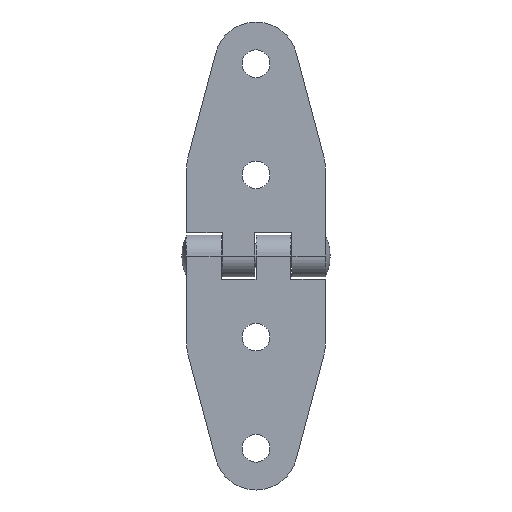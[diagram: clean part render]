
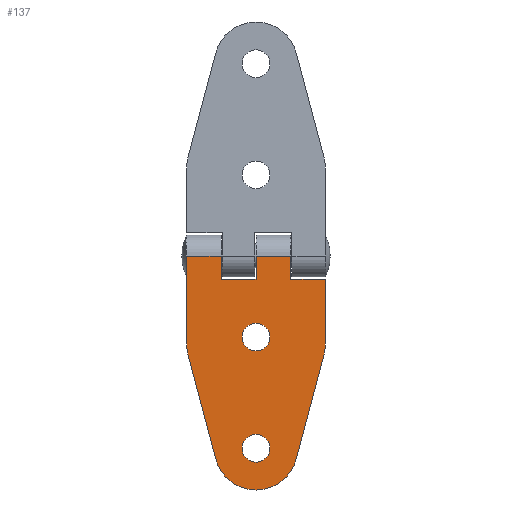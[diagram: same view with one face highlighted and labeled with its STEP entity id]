
A CAD part, front view. The second image highlights one B-rep face of the part: STEP entity #137.
In plain terms, the highlighted planar face has unit normal (0, -1, 0).
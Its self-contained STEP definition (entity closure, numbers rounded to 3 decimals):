
#137=ADVANCED_FACE('',(#223,#224,#225),#226,.T.);
#223=FACE_BOUND('',#375,.T.);
#224=FACE_BOUND('',#376,.T.);
#225=FACE_OUTER_BOUND('',#377,.T.);
#226=PLANE('',#378);
#375=EDGE_LOOP('',(#603,#604));
#376=EDGE_LOOP('',(#605,#606));
#377=EDGE_LOOP('',(#607,#608,#609,#610,#611,#612,#613,#614,#615,#616,#617,#618,#619,#620,#621));
#378=AXIS2_PLACEMENT_3D('',#622,#623,#624);
#603=ORIENTED_EDGE('',*,*,#1182,.T.);
#604=ORIENTED_EDGE('',*,*,#1137,.T.);
#605=ORIENTED_EDGE('',*,*,#1183,.T.);
#606=ORIENTED_EDGE('',*,*,#1133,.T.);
#607=ORIENTED_EDGE('',*,*,#1172,.T.);
#608=ORIENTED_EDGE('',*,*,#1178,.T.);
#609=ORIENTED_EDGE('',*,*,#1165,.F.);
#610=ORIENTED_EDGE('',*,*,#1184,.T.);
#611=ORIENTED_EDGE('',*,*,#1185,.T.);
#612=ORIENTED_EDGE('',*,*,#1186,.T.);
#613=ORIENTED_EDGE('',*,*,#1142,.F.);
#614=ORIENTED_EDGE('',*,*,#1187,.T.);
#615=ORIENTED_EDGE('',*,*,#1188,.T.);
#616=ORIENTED_EDGE('',*,*,#1189,.T.);
#617=ORIENTED_EDGE('',*,*,#1190,.T.);
#618=ORIENTED_EDGE('',*,*,#1131,.T.);
#619=ORIENTED_EDGE('',*,*,#1191,.T.);
#620=ORIENTED_EDGE('',*,*,#1192,.T.);
#621=ORIENTED_EDGE('',*,*,#1179,.T.);
#622=CARTESIAN_POINT('',(0.,-4.5,-50.5));
#623=DIRECTION('',(0.0,-1.0,0.0));
#624=DIRECTION('',(0.,0.0,-1.0));
#1131=EDGE_CURVE('',#1337,#1341,#1343,.T.);
#1133=EDGE_CURVE('',#1347,#1344,#1348,.T.);
#1137=EDGE_CURVE('',#1355,#1352,#1356,.T.);
#1142=EDGE_CURVE('',#1363,#1365,#1366,.T.);
#1165=EDGE_CURVE('',#1408,#1410,#1411,.T.);
#1172=EDGE_CURVE('',#1423,#1421,#1424,.T.);
#1178=EDGE_CURVE('',#1421,#1410,#1431,.T.);
#1179=EDGE_CURVE('',#1432,#1423,#1433,.T.);
#1182=EDGE_CURVE('',#1352,#1355,#1437,.T.);
#1183=EDGE_CURVE('',#1344,#1347,#1438,.T.);
#1184=EDGE_CURVE('',#1408,#1439,#1440,.T.);
#1185=EDGE_CURVE('',#1439,#1441,#1442,.T.);
#1186=EDGE_CURVE('',#1441,#1365,#1443,.T.);
#1187=EDGE_CURVE('',#1363,#1444,#1445,.T.);
#1188=EDGE_CURVE('',#1444,#1446,#1447,.T.);
#1189=EDGE_CURVE('',#1446,#1448,#1449,.T.);
#1190=EDGE_CURVE('',#1448,#1337,#1450,.T.);
#1191=EDGE_CURVE('',#1341,#1451,#1452,.T.);
#1192=EDGE_CURVE('',#1451,#1432,#1453,.T.);
#1337=VERTEX_POINT('',#1684);
#1341=VERTEX_POINT('',#1689);
#1343=CIRCLE('',#1692,9.0);
#1344=VERTEX_POINT('',#1693);
#1347=VERTEX_POINT('',#1697);
#1348=CIRCLE('',#1698,3.0);
#1352=VERTEX_POINT('',#1703);
#1355=VERTEX_POINT('',#1707);
#1356=CIRCLE('',#1708,3.0);
#1363=VERTEX_POINT('',#1717);
#1365=VERTEX_POINT('',#1719);
#1366=LINE('',#1720,#1721);
#1408=VERTEX_POINT('',#1773);
#1410=VERTEX_POINT('',#1775);
#1411=LINE('',#1776,#1777);
#1421=VERTEX_POINT('',#1789);
#1423=VERTEX_POINT('',#1792);
#1424=LINE('',#1793,#1794);
#1431=LINE('',#1804,#1805);
#1432=VERTEX_POINT('',#1806);
#1433=LINE('',#1807,#1808);
#1437=CIRCLE('',#1814,3.0);
#1438=CIRCLE('',#1815,3.0);
#1439=VERTEX_POINT('',#1816);
#1440=LINE('',#1817,#1818);
#1441=VERTEX_POINT('',#1819);
#1442=LINE('',#1820,#1821);
#1443=LINE('',#1822,#1823);
#1444=VERTEX_POINT('',#1824);
#1445=LINE('',#1825,#1826);
#1446=VERTEX_POINT('',#1827);
#1447=CIRCLE('',#1828,10.);
#1448=VERTEX_POINT('',#1829);
#1449=LINE('',#1830,#1831);
#1450=CIRCLE('',#1832,9.0);
#1451=VERTEX_POINT('',#1833);
#1452=LINE('',#1834,#1835);
#1453=CIRCLE('',#1836,10.);
#1684=CARTESIAN_POINT('',(15.0,-4.5,-50.5));
#1689=CARTESIAN_POINT('',(23.776,-4.5,-43.494));
#1692=AXIS2_PLACEMENT_3D('',#2210,#2211,#2212);
#1693=CARTESIAN_POINT('',(15.0,-4.5,-44.5));
#1697=CARTESIAN_POINT('',(15.0,-4.5,-38.5));
#1698=AXIS2_PLACEMENT_3D('',#2214,#2215,#2216);
#1703=CARTESIAN_POINT('',(15.0,-4.5,-20.5));
#1707=CARTESIAN_POINT('',(15.0,-4.5,-14.5));
#1708=AXIS2_PLACEMENT_3D('',#2222,#2223,#2224);
#1717=CARTESIAN_POINT('',(0.,-4.5,0.));
#1719=CARTESIAN_POINT('',(7.5,-4.5,0.));
#1720=CARTESIAN_POINT('',(0.,-4.5,0.));
#1721=VECTOR('',#2233,1.0);
#1773=CARTESIAN_POINT('',(15.0,-4.5,0.));
#1775=CARTESIAN_POINT('',(22.5,-4.5,0.));
#1776=CARTESIAN_POINT('',(0.,-4.5,0.));
#1777=VECTOR('',#2280,1.0);
#1789=CARTESIAN_POINT('',(22.5,-4.5,-5.0));
#1792=CARTESIAN_POINT('',(30.0,-4.5,-5.0));
#1793=CARTESIAN_POINT('',(13.125,-4.5,-5.0));
#1794=VECTOR('',#2293,1.0);
#1804=CARTESIAN_POINT('',(22.5,-4.5,-25.375));
#1805=VECTOR('',#2303,1.0);
#1806=CARTESIAN_POINT('',(30.0,-4.5,-18.718));
#1807=CARTESIAN_POINT('',(30.0,-4.5,0.));
#1808=VECTOR('',#2304,1.0);
#1814=AXIS2_PLACEMENT_3D('',#2307,#2308,#2309);
#1815=AXIS2_PLACEMENT_3D('',#2310,#2311,#2312);
#1816=CARTESIAN_POINT('',(15.0,-4.5,-5.0));
#1817=CARTESIAN_POINT('',(15.0,-4.5,-25.375));
#1818=VECTOR('',#2313,1.0);
#1819=CARTESIAN_POINT('',(7.5,-4.5,-5.0));
#1820=CARTESIAN_POINT('',(5.625,-4.5,-5.0));
#1821=VECTOR('',#2314,1.0);
#1822=CARTESIAN_POINT('',(7.5,-4.5,-25.375));
#1823=VECTOR('',#2315,1.0);
#1824=CARTESIAN_POINT('',(0.,-4.5,-18.718));
#1825=CARTESIAN_POINT('',(0.,-4.5,0.));
#1826=VECTOR('',#2316,1.0);
#1827=CARTESIAN_POINT('',(0.248,-4.5,-20.934));
#1828=AXIS2_PLACEMENT_3D('',#2317,#2318,#2319);
#1829=CARTESIAN_POINT('',(6.224,-4.5,-43.494));
#1830=CARTESIAN_POINT('',(6.887,-4.5,-45.997));
#1831=VECTOR('',#2320,1.0);
#1832=AXIS2_PLACEMENT_3D('',#2321,#2322,#2323);
#1833=CARTESIAN_POINT('',(29.752,-4.5,-20.934));
#1834=CARTESIAN_POINT('',(25.118,-4.5,-38.429));
#1835=VECTOR('',#2324,1.0);
#1836=AXIS2_PLACEMENT_3D('',#2325,#2326,#2327);
#2210=CARTESIAN_POINT('',(15.0,-4.5,-41.5));
#2211=DIRECTION('',(0.0,-1.0,0.0));
#2212=DIRECTION('',(0.,0.0,-1.0));
#2214=CARTESIAN_POINT('',(15.0,-4.5,-41.5));
#2215=DIRECTION('',(0.0,1.0,0.0));
#2216=DIRECTION('',(0.,0.0,-1.0));
#2222=CARTESIAN_POINT('',(15.0,-4.5,-17.5));
#2223=DIRECTION('',(0.0,1.0,0.0));
#2224=DIRECTION('',(0.,0.0,-1.0));
#2233=DIRECTION('',(1.0,0.0,0.));
#2280=DIRECTION('',(1.0,0.0,0.));
#2293=DIRECTION('',(-1.0,0.0,0.));
#2303=DIRECTION('',(0.,0.0,1.0));
#2304=DIRECTION('',(0.,0.0,1.0));
#2307=CARTESIAN_POINT('',(15.0,-4.5,-17.5));
#2308=DIRECTION('',(0.0,1.0,0.0));
#2309=DIRECTION('',(0.,0.0,-1.0));
#2310=CARTESIAN_POINT('',(15.0,-4.5,-41.5));
#2311=DIRECTION('',(0.0,1.0,0.0));
#2312=DIRECTION('',(0.,0.0,-1.0));
#2313=DIRECTION('',(0.,0.0,-1.0));
#2314=DIRECTION('',(-1.0,0.0,0.));
#2315=DIRECTION('',(0.,0.0,1.0));
#2316=DIRECTION('',(0.,0.0,-1.0));
#2317=CARTESIAN_POINT('',(10.,-4.5,-18.718));
#2318=DIRECTION('',(0.0,-1.0,0.0));
#2319=DIRECTION('',(0.,0.0,-1.0));
#2320=DIRECTION('',(0.256,0.0,-0.967));
#2321=CARTESIAN_POINT('',(15.0,-4.5,-41.5));
#2322=DIRECTION('',(0.0,-1.0,0.0));
#2323=DIRECTION('',(0.,0.0,-1.0));
#2324=DIRECTION('',(0.256,0.0,0.967));
#2325=CARTESIAN_POINT('',(20.,-4.5,-18.718));
#2326=DIRECTION('',(0.0,-1.0,0.0));
#2327=DIRECTION('',(0.,0.0,-1.0));
